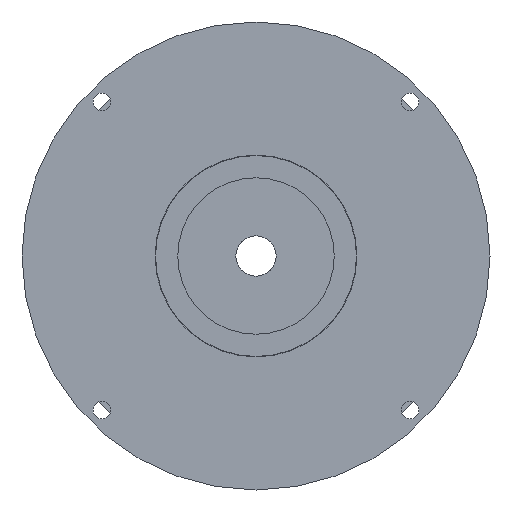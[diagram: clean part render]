
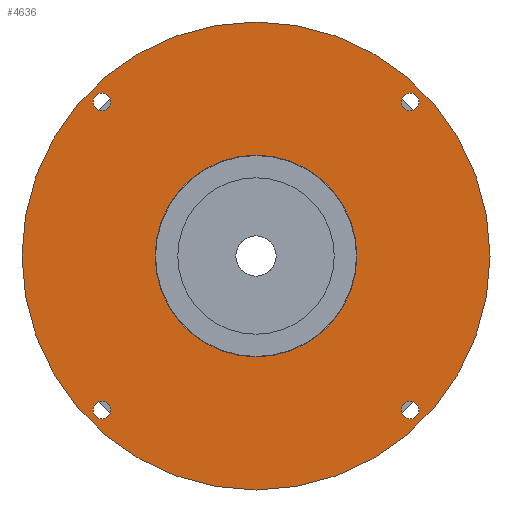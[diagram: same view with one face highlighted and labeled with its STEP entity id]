
A CAD part, left-side view. The second image highlights one B-rep face of the part: STEP entity #4636.
In plain terms, the highlighted planar face has unit normal (-1, 0, 0).
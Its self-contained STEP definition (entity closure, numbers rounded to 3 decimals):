
#734=FACE_BOUND('',#1345,.T.);
#735=FACE_BOUND('',#1346,.T.);
#736=FACE_BOUND('',#1347,.T.);
#737=FACE_BOUND('',#1348,.T.);
#738=FACE_BOUND('',#1349,.T.);
#1002=FACE_OUTER_BOUND('',#1344,.T.);
#1344=EDGE_LOOP('',(#4143,#4144));
#1345=EDGE_LOOP('',(#4145));
#1346=EDGE_LOOP('',(#4146));
#1347=EDGE_LOOP('',(#4147));
#1348=EDGE_LOOP('',(#4148));
#1349=EDGE_LOOP('',(#4149,#4150));
#1712=CIRCLE('',#5266,5.5);
#1715=CIRCLE('',#5270,5.5);
#1718=CIRCLE('',#5274,5.5);
#1721=CIRCLE('',#5278,5.5);
#1724=CIRCLE('',#5282,145.);
#1725=CIRCLE('',#5283,145.);
#1744=CIRCLE('',#5313,62.5);
#1745=CIRCLE('',#5314,62.5);
#2158=VERTEX_POINT('',#8699);
#2161=VERTEX_POINT('',#8707);
#2164=VERTEX_POINT('',#8715);
#2167=VERTEX_POINT('',#8723);
#2170=VERTEX_POINT('',#8731);
#2171=VERTEX_POINT('',#8733);
#2190=VERTEX_POINT('',#8791);
#2191=VERTEX_POINT('',#8793);
#2798=EDGE_CURVE('',#2158,#2158,#1712,.T.);
#2802=EDGE_CURVE('',#2161,#2161,#1715,.T.);
#2806=EDGE_CURVE('',#2164,#2164,#1718,.T.);
#2810=EDGE_CURVE('',#2167,#2167,#1721,.T.);
#2814=EDGE_CURVE('',#2170,#2171,#1724,.T.);
#2815=EDGE_CURVE('',#2171,#2170,#1725,.T.);
#2843=EDGE_CURVE('',#2191,#2190,#1744,.T.);
#2844=EDGE_CURVE('',#2190,#2191,#1745,.T.);
#4143=ORIENTED_EDGE('',*,*,#2815,.F.);
#4144=ORIENTED_EDGE('',*,*,#2814,.F.);
#4145=ORIENTED_EDGE('',*,*,#2798,.T.);
#4146=ORIENTED_EDGE('',*,*,#2802,.T.);
#4147=ORIENTED_EDGE('',*,*,#2806,.T.);
#4148=ORIENTED_EDGE('',*,*,#2810,.T.);
#4149=ORIENTED_EDGE('',*,*,#2843,.T.);
#4150=ORIENTED_EDGE('',*,*,#2844,.T.);
#4244=PLANE('',#5315);
#4636=ADVANCED_FACE('',(#1002,#734,#735,#736,#737,#738),#4244,.T.);
#5266=AXIS2_PLACEMENT_3D('',#8701,#6732,#6733);
#5270=AXIS2_PLACEMENT_3D('',#8709,#6741,#6742);
#5274=AXIS2_PLACEMENT_3D('',#8717,#6750,#6751);
#5278=AXIS2_PLACEMENT_3D('',#8725,#6759,#6760);
#5282=AXIS2_PLACEMENT_3D('',#8734,#6768,#6769);
#5283=AXIS2_PLACEMENT_3D('',#8735,#6770,#6771);
#5313=AXIS2_PLACEMENT_3D('',#8794,#6839,#6840);
#5314=AXIS2_PLACEMENT_3D('',#8795,#6841,#6842);
#5315=AXIS2_PLACEMENT_3D('',#8796,#6843,#6844);
#6732=DIRECTION('center_axis',(1.,0.,0.));
#6733=DIRECTION('ref_axis',(0.,0.,-1.));
#6741=DIRECTION('center_axis',(1.,0.,0.));
#6742=DIRECTION('ref_axis',(0.,0.,-1.));
#6750=DIRECTION('center_axis',(1.,0.,0.));
#6751=DIRECTION('ref_axis',(0.,0.,-1.));
#6759=DIRECTION('center_axis',(1.,0.,0.));
#6760=DIRECTION('ref_axis',(0.,0.,-1.));
#6768=DIRECTION('center_axis',(1.,0.,0.));
#6769=DIRECTION('ref_axis',(0.,0.,-1.));
#6770=DIRECTION('center_axis',(1.,0.,0.));
#6771=DIRECTION('ref_axis',(0.,0.,-1.));
#6839=DIRECTION('center_axis',(1.,0.,0.));
#6840=DIRECTION('ref_axis',(0.,0.,-1.));
#6841=DIRECTION('center_axis',(1.,0.,0.));
#6842=DIRECTION('ref_axis',(0.,0.,-1.));
#6843=DIRECTION('center_axis',(-1.,0.,0.));
#6844=DIRECTION('ref_axis',(0.,0.,1.));
#8699=CARTESIAN_POINT('',(-17.5,-95.459,-89.959));
#8701=CARTESIAN_POINT('Origin',(-17.5,-95.459,-95.459));
#8707=CARTESIAN_POINT('',(-17.5,95.459,100.959));
#8709=CARTESIAN_POINT('Origin',(-17.5,95.459,95.459));
#8715=CARTESIAN_POINT('',(-17.5,-95.459,100.959));
#8717=CARTESIAN_POINT('Origin',(-17.5,-95.459,95.459));
#8723=CARTESIAN_POINT('',(-17.5,95.459,-89.959));
#8725=CARTESIAN_POINT('Origin',(-17.5,95.459,-95.459));
#8731=CARTESIAN_POINT('',(-17.5,-145.,0.));
#8733=CARTESIAN_POINT('',(-17.5,145.,0.));
#8734=CARTESIAN_POINT('Origin',(-17.5,0.,0.));
#8735=CARTESIAN_POINT('Origin',(-17.5,0.,0.));
#8791=CARTESIAN_POINT('',(-17.5,-62.5,0.));
#8793=CARTESIAN_POINT('',(-17.5,62.5,0.));
#8794=CARTESIAN_POINT('Origin',(-17.5,0.,0.));
#8795=CARTESIAN_POINT('Origin',(-17.5,0.,0.));
#8796=CARTESIAN_POINT('Origin',(-17.5,145.,0.));
